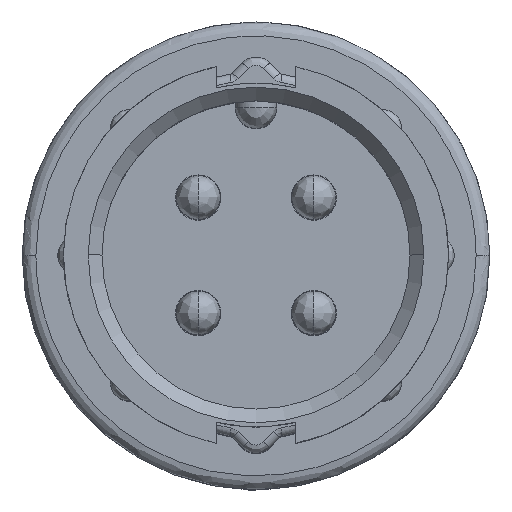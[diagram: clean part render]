
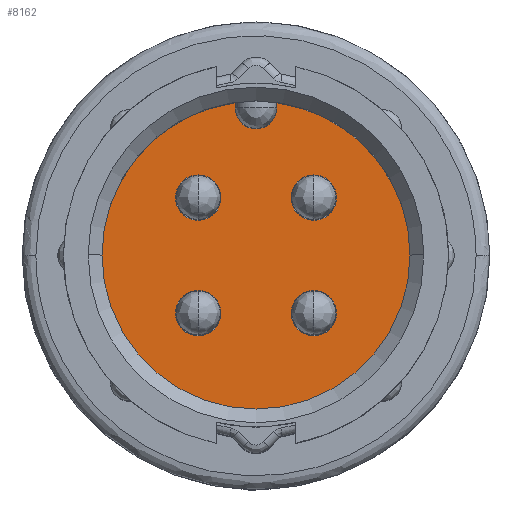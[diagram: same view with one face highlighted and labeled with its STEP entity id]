
A CAD part, top view. The second image highlights one B-rep face of the part: STEP entity #8162.
In plain terms, the highlighted planar face has unit normal (0, 0, 1).
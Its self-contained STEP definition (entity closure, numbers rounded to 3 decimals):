
#262 = CIRCLE ( 'NONE', #18881, 0.825 ) ;
#363 = DIRECTION ( 'NONE',  ( 0., 0., 1. ) ) ;
#445 = AXIS2_PLACEMENT_3D ( 'NONE', #1118, #17807, #1430 ) ;
#1118 = CARTESIAN_POINT ( 'NONE',  ( 0., 0., -9. ) ) ;
#1271 = CARTESIAN_POINT ( 'NONE',  ( 1.275, -2.1, -9. ) ) ;
#1279 = CARTESIAN_POINT ( 'NONE',  ( -2.925, 2.1, -9. ) ) ;
#1288 = ORIENTED_EDGE ( 'NONE', *, *, #9331, .F. ) ;
#1345 = AXIS2_PLACEMENT_3D ( 'NONE', #18051, #10809, #18205 ) ;
#1397 = ORIENTED_EDGE ( 'NONE', *, *, #2548, .F. ) ;
#1430 = DIRECTION ( 'NONE',  ( 1., 0., 0. ) ) ;
#1586 = VECTOR ( 'NONE', #31130, 1000. ) ;
#2051 = CIRCLE ( 'NONE', #11084, 0.825 ) ;
#2073 = AXIS2_PLACEMENT_3D ( 'NONE', #26389, #26238, #23719 ) ;
#2548 = EDGE_CURVE ( 'NONE', #2787, #28588, #18819, .T. ) ;
#2787 = VERTEX_POINT ( 'NONE', #1279 ) ;
#3393 = FACE_BOUND ( 'NONE', #16649, .T. ) ;
#3634 = CARTESIAN_POINT ( 'NONE',  ( 2.1, 2.1, -9. ) ) ;
#3795 = DIRECTION ( 'NONE',  ( 0., 0., 1. ) ) ;
#3854 = CARTESIAN_POINT ( 'NONE',  ( -5.824, -5.825, -9. ) ) ;
#4061 = ORIENTED_EDGE ( 'NONE', *, *, #29439, .F. ) ;
#4474 = CARTESIAN_POINT ( 'NONE',  ( 2.925, -2.1, -9. ) ) ;
#5072 = AXIS2_PLACEMENT_3D ( 'NONE', #15935, #25691, #30430 ) ;
#5109 = VERTEX_POINT ( 'NONE', #6764 ) ;
#5253 = AXIS2_PLACEMENT_3D ( 'NONE', #30748, #6355, #9179 ) ;
#5380 = CIRCLE ( 'NONE', #1345, 0.825 ) ;
#5603 = FACE_BOUND ( 'NONE', #22858, .T. ) ;
#5909 = DIRECTION ( 'NONE',  ( 1., 0., 0. ) ) ;
#6095 = VERTEX_POINT ( 'NONE', #1271 ) ;
#6150 = DIRECTION ( 'NONE',  ( 1., 0., 0. ) ) ;
#6223 = EDGE_CURVE ( 'NONE', #27207, #5109, #16934, .T. ) ;
#6355 = DIRECTION ( 'NONE',  ( 0., 0., 1. ) ) ;
#6764 = CARTESIAN_POINT ( 'NONE',  ( 2.925, 2.1, -9. ) ) ;
#6900 = LINE ( 'NONE', #16486, #25661 ) ;
#7000 = CIRCLE ( 'NONE', #26572, 0.825 ) ;
#7062 = AXIS2_PLACEMENT_3D ( 'NONE', #9703, #19298, #16940 ) ;
#7172 = ORIENTED_EDGE ( 'NONE', *, *, #26234, .F. ) ;
#8162 = ADVANCED_FACE ( 'NONE', ( #27780, #25396, #3393, #5603, #10469 ), #27156, .T. ) ;
#8776 = ORIENTED_EDGE ( 'NONE', *, *, #13456, .F. ) ;
#8917 = ORIENTED_EDGE ( 'NONE', *, *, #18662, .F. ) ;
#9179 = DIRECTION ( 'NONE',  ( 1., 0., 0. ) ) ;
#9331 = EDGE_CURVE ( 'NONE', #27274, #16962, #25990, .T. ) ;
#9703 = CARTESIAN_POINT ( 'NONE',  ( 0., 0., -9. ) ) ;
#9761 = CARTESIAN_POINT ( 'NONE',  ( 5.6, 0., -9. ) ) ;
#9959 = CARTESIAN_POINT ( 'NONE',  ( 0., 0., -9. ) ) ;
#10167 = ORIENTED_EDGE ( 'NONE', *, *, #17651, .F. ) ;
#10177 = DIRECTION ( 'NONE',  ( 0., 0., 1. ) ) ;
#10245 = CARTESIAN_POINT ( 'NONE',  ( -2.1, 2.1, -9. ) ) ;
#10469 = FACE_OUTER_BOUND ( 'NONE', #29416, .T. ) ;
#10809 = DIRECTION ( 'NONE',  ( 0., 0., 1. ) ) ;
#10854 = DIRECTION ( 'NONE',  ( 0., 0., 1. ) ) ;
#10991 = ORIENTED_EDGE ( 'NONE', *, *, #26555, .T. ) ;
#11084 = AXIS2_PLACEMENT_3D ( 'NONE', #20082, #30309, #17726 ) ;
#11596 = CIRCLE ( 'NONE', #2073, 0.825 ) ;
#11934 = CIRCLE ( 'NONE', #19455, 5.6 ) ;
#12000 = ORIENTED_EDGE ( 'NONE', *, *, #14027, .T. ) ;
#12066 = DIRECTION ( 'NONE',  ( 0., -1., 0. ) ) ;
#12468 = CARTESIAN_POINT ( 'NONE',  ( -1.275, 2.1, -9. ) ) ;
#13456 = EDGE_CURVE ( 'NONE', #28588, #2787, #7000, .T. ) ;
#13849 = CARTESIAN_POINT ( 'NONE',  ( 0.75, 5.55, -9. ) ) ;
#13917 = CARTESIAN_POINT ( 'NONE',  ( -5.6, 0., -9. ) ) ;
#14027 = EDGE_CURVE ( 'NONE', #20595, #26971, #21039, .T. ) ;
#14147 = CARTESIAN_POINT ( 'NONE',  ( -0.75, 5.35, -9. ) ) ;
#14372 = CARTESIAN_POINT ( 'NONE',  ( -1.275, -2.1, -9. ) ) ;
#14404 = AXIS2_PLACEMENT_3D ( 'NONE', #23829, #28414, #21618 ) ;
#15935 = CARTESIAN_POINT ( 'NONE',  ( 0., 5.35, -9. ) ) ;
#16486 = CARTESIAN_POINT ( 'NONE',  ( -0.75, -0.026, -9. ) ) ;
#16530 = EDGE_CURVE ( 'NONE', #26971, #22214, #22627, .T. ) ;
#16649 = EDGE_LOOP ( 'NONE', ( #8917, #1288 ) ) ;
#16934 = CIRCLE ( 'NONE', #25991, 0.825 ) ;
#16940 = DIRECTION ( 'NONE',  ( 1., 0., 0. ) ) ;
#16962 = VERTEX_POINT ( 'NONE', #14372 ) ;
#17375 = ORIENTED_EDGE ( 'NONE', *, *, #16530, .T. ) ;
#17413 = VERTEX_POINT ( 'NONE', #20886 ) ;
#17462 = EDGE_CURVE ( 'NONE', #17413, #20881, #6900, .T. ) ;
#17651 = EDGE_CURVE ( 'NONE', #24822, #6095, #2051, .T. ) ;
#17726 = DIRECTION ( 'NONE',  ( 1., 0., 0. ) ) ;
#17807 = DIRECTION ( 'NONE',  ( 0., 0., 1. ) ) ;
#17860 = DIRECTION ( 'NONE',  ( 0., 0., 1. ) ) ;
#18051 = CARTESIAN_POINT ( 'NONE',  ( 2.1, -2.1, -9. ) ) ;
#18100 = EDGE_CURVE ( 'NONE', #20881, #22098, #21125, .T. ) ;
#18205 = DIRECTION ( 'NONE',  ( 1., 0., 0. ) ) ;
#18662 = EDGE_CURVE ( 'NONE', #16962, #27274, #11596, .T. ) ;
#18819 = CIRCLE ( 'NONE', #5253, 0.825 ) ;
#18881 = AXIS2_PLACEMENT_3D ( 'NONE', #3634, #10854, #6150 ) ;
#19192 = EDGE_LOOP ( 'NONE', ( #10167, #7172 ) ) ;
#19298 = DIRECTION ( 'NONE',  ( 0., 0., 1. ) ) ;
#19455 = AXIS2_PLACEMENT_3D ( 'NONE', #9959, #363, #29632 ) ;
#19983 = EDGE_CURVE ( 'NONE', #22098, #22214, #23881, .T. ) ;
#20082 = CARTESIAN_POINT ( 'NONE',  ( 2.1, -2.1, -9. ) ) ;
#20464 = DIRECTION ( 'NONE',  ( 1., 0., 0. ) ) ;
#20595 = VERTEX_POINT ( 'NONE', #13917 ) ;
#20741 = ORIENTED_EDGE ( 'NONE', *, *, #19983, .F. ) ;
#20881 = VERTEX_POINT ( 'NONE', #14147 ) ;
#20886 = CARTESIAN_POINT ( 'NONE',  ( -0.75, 5.55, -9. ) ) ;
#21039 = CIRCLE ( 'NONE', #445, 5.6 ) ;
#21125 = CIRCLE ( 'NONE', #5072, 0.75 ) ;
#21618 = DIRECTION ( 'NONE',  ( 1., 0., 0. ) ) ;
#22098 = VERTEX_POINT ( 'NONE', #29934 ) ;
#22214 = VERTEX_POINT ( 'NONE', #13849 ) ;
#22361 = EDGE_LOOP ( 'NONE', ( #4061, #26352 ) ) ;
#22464 = CARTESIAN_POINT ( 'NONE',  ( 1.275, 2.1, -9. ) ) ;
#22627 = CIRCLE ( 'NONE', #7062, 5.6 ) ;
#22858 = EDGE_LOOP ( 'NONE', ( #8776, #1397 ) ) ;
#23719 = DIRECTION ( 'NONE',  ( 1., 0., 0. ) ) ;
#23829 = CARTESIAN_POINT ( 'NONE',  ( -2.1, -2.1, -9. ) ) ;
#23881 = LINE ( 'NONE', #25650, #1586 ) ;
#24340 = DIRECTION ( 'NONE',  ( 1., 0., 0. ) ) ;
#24822 = VERTEX_POINT ( 'NONE', #4474 ) ;
#25280 = ORIENTED_EDGE ( 'NONE', *, *, #17462, .F. ) ;
#25396 = FACE_BOUND ( 'NONE', #19192, .T. ) ;
#25650 = CARTESIAN_POINT ( 'NONE',  ( 0.75, -0.026, -9. ) ) ;
#25661 = VECTOR ( 'NONE', #12066, 1000. ) ;
#25691 = DIRECTION ( 'NONE',  ( 0., 0., 1. ) ) ;
#25990 = CIRCLE ( 'NONE', #14404, 0.825 ) ;
#25991 = AXIS2_PLACEMENT_3D ( 'NONE', #29080, #10177, #24340 ) ;
#26234 = EDGE_CURVE ( 'NONE', #6095, #24822, #5380, .T. ) ;
#26238 = DIRECTION ( 'NONE',  ( 0., 0., 1. ) ) ;
#26352 = ORIENTED_EDGE ( 'NONE', *, *, #6223, .F. ) ;
#26389 = CARTESIAN_POINT ( 'NONE',  ( -2.1, -2.1, -9. ) ) ;
#26555 = EDGE_CURVE ( 'NONE', #17413, #20595, #11934, .T. ) ;
#26572 = AXIS2_PLACEMENT_3D ( 'NONE', #10245, #3795, #20464 ) ;
#26894 = ORIENTED_EDGE ( 'NONE', *, *, #18100, .F. ) ;
#26971 = VERTEX_POINT ( 'NONE', #9761 ) ;
#26978 = AXIS2_PLACEMENT_3D ( 'NONE', #3854, #17860, #5909 ) ;
#27156 = PLANE ( 'NONE',  #26978 ) ;
#27207 = VERTEX_POINT ( 'NONE', #22464 ) ;
#27274 = VERTEX_POINT ( 'NONE', #28576 ) ;
#27780 = FACE_BOUND ( 'NONE', #22361, .T. ) ;
#28414 = DIRECTION ( 'NONE',  ( 0., 0., 1. ) ) ;
#28576 = CARTESIAN_POINT ( 'NONE',  ( -2.925, -2.1, -9. ) ) ;
#28588 = VERTEX_POINT ( 'NONE', #12468 ) ;
#29080 = CARTESIAN_POINT ( 'NONE',  ( 2.1, 2.1, -9. ) ) ;
#29416 = EDGE_LOOP ( 'NONE', ( #10991, #12000, #17375, #20741, #26894, #25280 ) ) ;
#29439 = EDGE_CURVE ( 'NONE', #5109, #27207, #262, .T. ) ;
#29632 = DIRECTION ( 'NONE',  ( 1., 0., 0. ) ) ;
#29934 = CARTESIAN_POINT ( 'NONE',  ( 0.75, 5.35, -9. ) ) ;
#30309 = DIRECTION ( 'NONE',  ( 0., 0., 1. ) ) ;
#30430 = DIRECTION ( 'NONE',  ( 1., 0., 0. ) ) ;
#30748 = CARTESIAN_POINT ( 'NONE',  ( -2.1, 2.1, -9. ) ) ;
#31130 = DIRECTION ( 'NONE',  ( 0., 1., 0. ) ) ;
